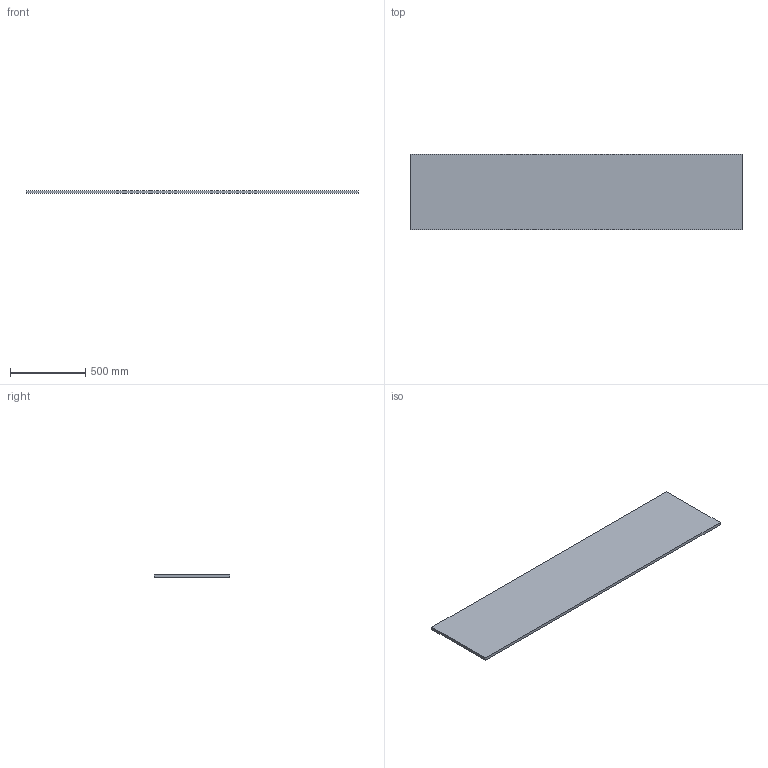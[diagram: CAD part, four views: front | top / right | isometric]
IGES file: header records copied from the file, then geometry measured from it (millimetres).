
Start section: Data from Parasolid IGES Translator 22.0.50, Copyright(c) 2006 Siemens P LM Software. All Rights Reserved.
Global section: file name: noorth-bathtub-covering panels_5470-5471.igs; native system: By Siemens PLM Incorporated; preprocessor: XPlus GENERIC/IGES 22.0.50; author: Noname; organization: Noname; date: 20250706.163729; units: metre
Bounding box: 2200 x 500 x 19 mm (x, y, z)
Volume: 20900000 mm3; surface area: 2302600 mm2
Topology: 1 solids, 1 shells, 6 faces, 12 edges, 8 vertices
Faces by surface type: plane 6
